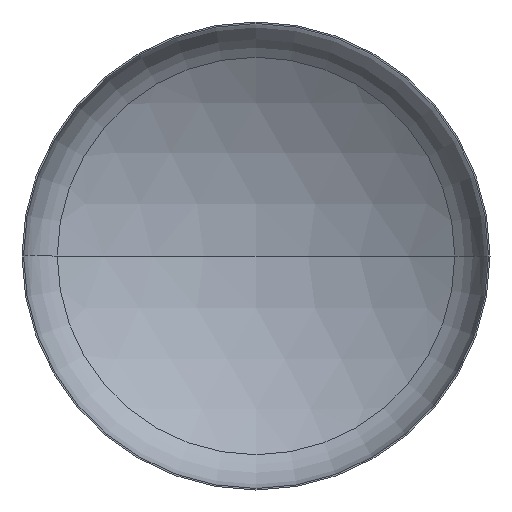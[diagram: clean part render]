
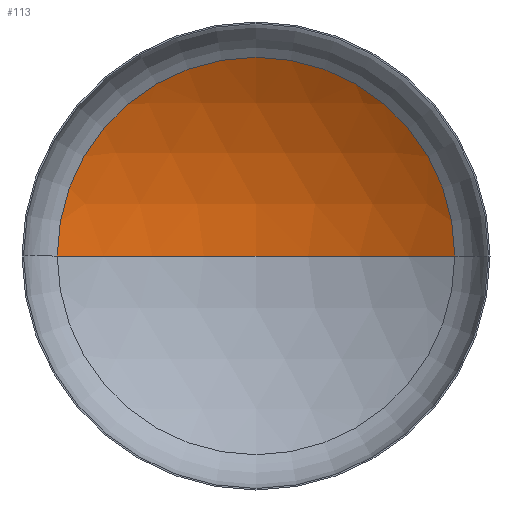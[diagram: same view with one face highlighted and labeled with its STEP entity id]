
A CAD part, front view. The second image highlights one B-rep face of the part: STEP entity #113.
In plain terms, the highlighted spherical face has radius 4400 mm.
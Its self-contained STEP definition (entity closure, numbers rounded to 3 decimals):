
#1 = DIRECTION ( 'NONE',  ( 0., -1., 0. ) ) ;
#41 = CARTESIAN_POINT ( 'NONE',  ( 0., -2957.848, 0. ) ) ;
#43 = DIRECTION ( 'NONE',  ( -1., 0., 0. ) ) ;
#49 = AXIS2_PLACEMENT_3D ( 'NONE', #41, #261, #72 ) ;
#53 = AXIS2_PLACEMENT_3D ( 'NONE', #260, #70, #289 ) ;
#70 = DIRECTION ( 'NONE',  ( 0., 0., -1. ) ) ;
#72 = DIRECTION ( 'NONE',  ( 1., 0., 0. ) ) ;
#90 = ORIENTED_EDGE ( 'NONE', *, *, #147, .T. ) ;
#113 = ADVANCED_FACE ( 'NONE', ( #177 ), #255, .F. ) ;
#117 = VERTEX_POINT ( 'NONE', #386 ) ;
#136 = DIRECTION ( 'NONE',  ( 0., 0., -1. ) ) ;
#138 = CARTESIAN_POINT ( 'NONE',  ( 2335.527, 771.134, 0. ) ) ;
#147 = EDGE_CURVE ( 'NONE', #160, #370, #246, .T. ) ;
#155 = DIRECTION ( 'NONE',  ( 1., 0., 0. ) ) ;
#160 = VERTEX_POINT ( 'NONE', #138 ) ;
#177 = FACE_OUTER_BOUND ( 'NONE', #281, .T. ) ;
#204 = CIRCLE ( 'NONE', #49, 4400. ) ;
#205 = ORIENTED_EDGE ( 'NONE', *, *, #405, .F. ) ;
#209 = AXIS2_PLACEMENT_3D ( 'NONE', #376, #1, #155 ) ;
#216 = AXIS2_PLACEMENT_3D ( 'NONE', #323, #136, #43 ) ;
#246 = CIRCLE ( 'NONE', #209, 2335.527 ) ;
#255 = SPHERICAL_SURFACE ( 'NONE', #216, 4400. ) ;
#260 = CARTESIAN_POINT ( 'NONE',  ( 0., -2957.848, 0. ) ) ;
#261 = DIRECTION ( 'NONE',  ( 0., 0., 1. ) ) ;
#273 = CIRCLE ( 'NONE', #53, 4400. ) ;
#281 = EDGE_LOOP ( 'NONE', ( #205, #315, #90 ) ) ;
#289 = DIRECTION ( 'NONE',  ( -1., 0., 0. ) ) ;
#315 = ORIENTED_EDGE ( 'NONE', *, *, #393, .T. ) ;
#323 = CARTESIAN_POINT ( 'NONE',  ( 0., -2957.848, 0. ) ) ;
#351 = CARTESIAN_POINT ( 'NONE',  ( -2335.527, 771.134, 0. ) ) ;
#370 = VERTEX_POINT ( 'NONE', #351 ) ;
#376 = CARTESIAN_POINT ( 'NONE',  ( 0., 771.134, 0. ) ) ;
#386 = CARTESIAN_POINT ( 'NONE',  ( 0., 1442.152, 0. ) ) ;
#393 = EDGE_CURVE ( 'NONE', #117, #160, #273, .T. ) ;
#405 = EDGE_CURVE ( 'NONE', #117, #370, #204, .T. ) ;
